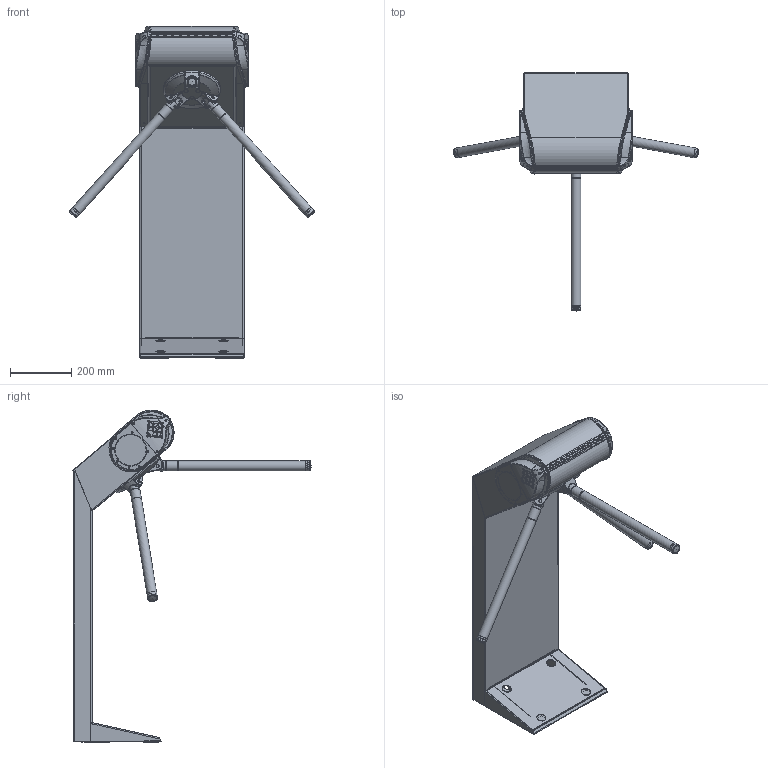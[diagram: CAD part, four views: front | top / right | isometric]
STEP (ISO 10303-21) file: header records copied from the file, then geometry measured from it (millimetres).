
FILE_DESCRIPTION(/* description */ ('Unknown'),/* implementation_level */ '2;1');
FILE_NAME(/* name */ 'KT08.3A',/* time_stamp */ '2021-11-25T16:09:41+03:00',/* author */ ('Unknown'),/* organization */ ('Unknown'),/* preprocessor_version */ 'ST-DEVELOPER v18.1',/* originating_system */ 'Solid Edge',/* authorisation */ 'Unknown');
FILE_SCHEMA (('CONFIG_CONTROL_DESIGN','TECHNICAL_DATA_PACKAGING'));
Products named in the file (1): KT08
Bounding box: 799.15 x 775.91 x 1081.49 mm (x, y, z)
Volume: 3625647.6 mm3; surface area: 3399857.7 mm2
Topology: 57 solids, 59 shells, 4291 faces, 11287 edges, 7286 vertices
Faces by surface type: cylinder 1253, plane 1207, sphere 1102, bspline 334, cone 200, torus 195
Full cylindrical faces by diameter (mm): 2 x2, 3.242 x21, 3.3 x14, 3.5 x4, 4.5 x2, 5 x18, 6 x4, 6.466 x3, 8 x33, 9 x3, 10 x21, 12 x4, 13 x13, 14.5 x3, 15 x4, 20 x1, 23.4 x3, 27 x6, 28 x3, 28.5 x6, 30 x4, 32 x9, 100 x2, 185 x1, 188 x1
Entity records: 167459 total; most frequent: CARTESIAN_POINT 68477, ORIENTED_EDGE 21380, DIRECTION 17470, EDGE_CURVE 10690, VERTEX_POINT 7116, AXIS2_PLACEMENT_3D 7103, FACE_BOUND 5222, EDGE_LOOP 5204
